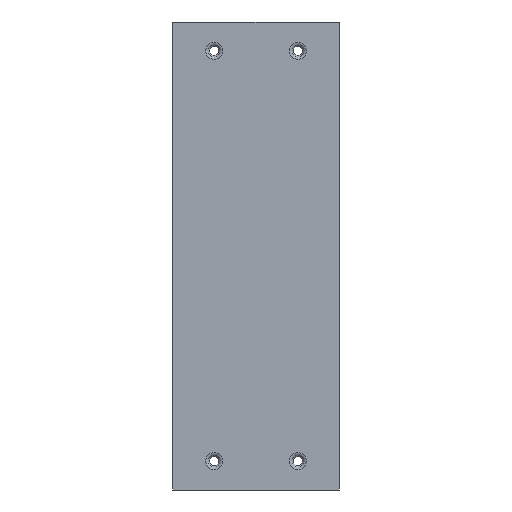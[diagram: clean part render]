
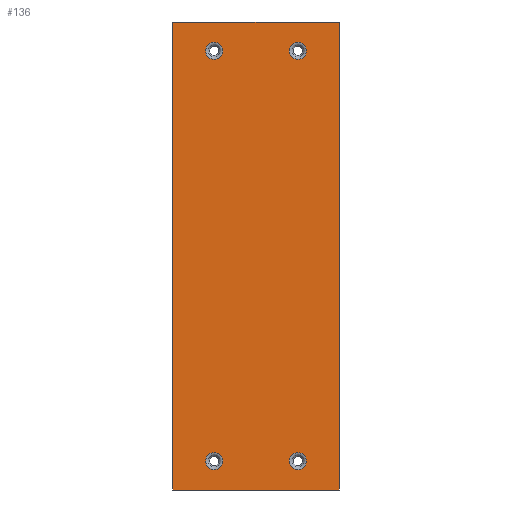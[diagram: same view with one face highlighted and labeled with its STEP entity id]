
A CAD part, left-side view. The second image highlights one B-rep face of the part: STEP entity #136.
In plain terms, the highlighted planar face has unit normal (-1, 0, 0).
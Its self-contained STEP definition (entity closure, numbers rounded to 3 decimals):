
#136 = ADVANCED_FACE( '', ( #294, #295, #296, #297, #298 ), #299, .F. );
#294 = FACE_BOUND( '', #455, .T. );
#295 = FACE_BOUND( '', #456, .T. );
#296 = FACE_OUTER_BOUND( '', #457, .T. );
#297 = FACE_BOUND( '', #458, .T. );
#298 = FACE_BOUND( '', #459, .T. );
#299 = PLANE( '', #460 );
#455 = EDGE_LOOP( '', ( #755 ) );
#456 = EDGE_LOOP( '', ( #756 ) );
#457 = EDGE_LOOP( '', ( #757, #758, #759, #760 ) );
#458 = EDGE_LOOP( '', ( #761 ) );
#459 = EDGE_LOOP( '', ( #762 ) );
#460 = AXIS2_PLACEMENT_3D( '', #763, #764, #765 );
#755 = ORIENTED_EDGE( '', *, *, #918, .T. );
#756 = ORIENTED_EDGE( '', *, *, #934, .T. );
#757 = ORIENTED_EDGE( '', *, *, #903, .T. );
#758 = ORIENTED_EDGE( '', *, *, #935, .T. );
#759 = ORIENTED_EDGE( '', *, *, #936, .F. );
#760 = ORIENTED_EDGE( '', *, *, #828, .F. );
#761 = ORIENTED_EDGE( '', *, *, #880, .T. );
#762 = ORIENTED_EDGE( '', *, *, #909, .T. );
#763 = CARTESIAN_POINT( '', ( 0., 198., 279. ) );
#764 = DIRECTION( '', ( 1., 0., 0. ) );
#765 = DIRECTION( '', ( 0., 0., -1. ) );
#828 = EDGE_CURVE( '', #960, #962, #963, .T. );
#880 = EDGE_CURVE( '', #1048, #1048, #1049, .T. );
#903 = EDGE_CURVE( '', #960, #1080, #1082, .T. );
#909 = EDGE_CURVE( '', #1090, #1090, #1091, .T. );
#918 = EDGE_CURVE( '', #1103, #1103, #1104, .T. );
#934 = EDGE_CURVE( '', #1122, #1122, #1123, .T. );
#935 = EDGE_CURVE( '', #1080, #1124, #1125, .T. );
#936 = EDGE_CURVE( '', #962, #1124, #1126, .T. );
#960 = VERTEX_POINT( '', #1154 );
#962 = VERTEX_POINT( '', #1157 );
#963 = LINE( '', #1158, #1159 );
#1048 = VERTEX_POINT( '', #1271 );
#1049 = CIRCLE( '', #1272, 10.178 );
#1080 = VERTEX_POINT( '', #1315 );
#1082 = LINE( '', #1318, #1319 );
#1090 = VERTEX_POINT( '', #1327 );
#1091 = CIRCLE( '', #1328, 10.178 );
#1103 = VERTEX_POINT( '', #1342 );
#1104 = CIRCLE( '', #1343, 10.178 );
#1122 = VERTEX_POINT( '', #1369 );
#1123 = CIRCLE( '', #1370, 10.178 );
#1124 = VERTEX_POINT( '', #1371 );
#1125 = LINE( '', #1372, #1373 );
#1126 = LINE( '', #1374, #1375 );
#1154 = CARTESIAN_POINT( '', ( 0., 198., 279. ) );
#1157 = CARTESIAN_POINT( '', ( 0., 0., 279. ) );
#1158 = CARTESIAN_POINT( '', ( 0., 198., 279. ) );
#1159 = VECTOR( '', #1395, 1000. );
#1271 = CARTESIAN_POINT( '', ( 0., 48.979, 234.322 ) );
#1272 = AXIS2_PLACEMENT_3D( '', #1456, #1457, #1458 );
#1315 = CARTESIAN_POINT( '', ( 0., 198., -279. ) );
#1318 = CARTESIAN_POINT( '', ( 0., 198., 279. ) );
#1319 = VECTOR( '', #1481, 1000. );
#1327 = CARTESIAN_POINT( '', ( 0., 48.979, -254.678 ) );
#1328 = AXIS2_PLACEMENT_3D( '', #1488, #1489, #1490 );
#1342 = CARTESIAN_POINT( '', ( 0., 148.979, -254.678 ) );
#1343 = AXIS2_PLACEMENT_3D( '', #1499, #1500, #1501 );
#1369 = CARTESIAN_POINT( '', ( 0., 148.979, 234.322 ) );
#1370 = AXIS2_PLACEMENT_3D( '', #1510, #1511, #1512 );
#1371 = CARTESIAN_POINT( '', ( 0., 0., -279. ) );
#1372 = CARTESIAN_POINT( '', ( 0., 198., -279. ) );
#1373 = VECTOR( '', #1513, 1000. );
#1374 = CARTESIAN_POINT( '', ( 0., 0., 279. ) );
#1375 = VECTOR( '', #1514, 1000. );
#1395 = DIRECTION( '', ( 0., -1., 0. ) );
#1456 = CARTESIAN_POINT( '', ( 0., 48.979, 244.5 ) );
#1457 = DIRECTION( '', ( 1., 0., 0. ) );
#1458 = DIRECTION( '', ( 0., 0., -1. ) );
#1481 = DIRECTION( '', ( 0., 0., -1. ) );
#1488 = CARTESIAN_POINT( '', ( 0., 48.979, -244.5 ) );
#1489 = DIRECTION( '', ( 1., 0., 0. ) );
#1490 = DIRECTION( '', ( 0., 0., -1. ) );
#1499 = CARTESIAN_POINT( '', ( 0., 148.979, -244.5 ) );
#1500 = DIRECTION( '', ( 1., 0., 0. ) );
#1501 = DIRECTION( '', ( 0., 0., -1. ) );
#1510 = CARTESIAN_POINT( '', ( 0., 148.979, 244.5 ) );
#1511 = DIRECTION( '', ( 1., 0., 0. ) );
#1512 = DIRECTION( '', ( 0., 0., -1. ) );
#1513 = DIRECTION( '', ( 0., -1., 0. ) );
#1514 = DIRECTION( '', ( 0., 0., -1. ) );
